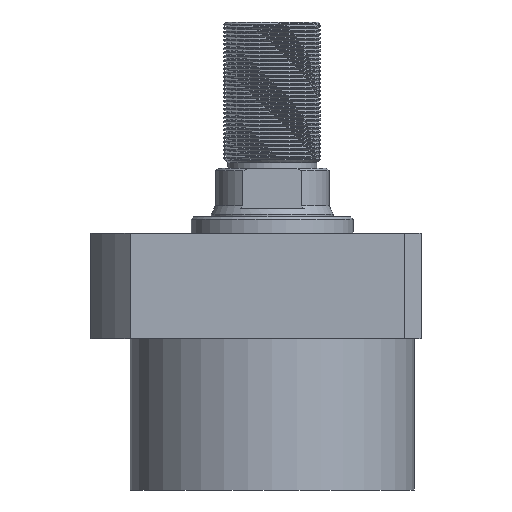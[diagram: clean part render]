
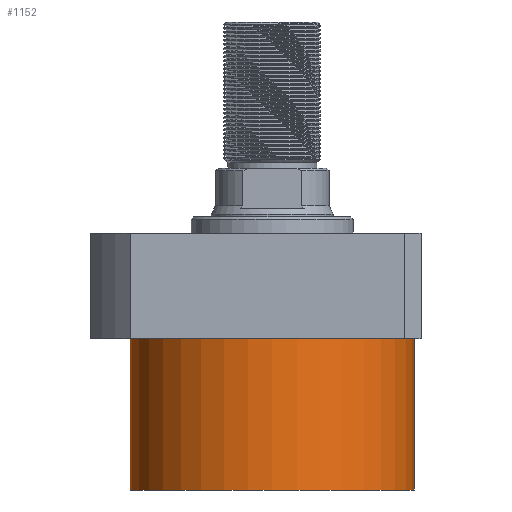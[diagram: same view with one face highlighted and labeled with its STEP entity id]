
A CAD part, front view. The second image highlights one B-rep face of the part: STEP entity #1152.
In plain terms, the highlighted cylindrical face has radius 52.5 mm (diameter 105 mm), a partial arc.
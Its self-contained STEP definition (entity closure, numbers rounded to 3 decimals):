
#318 = CARTESIAN_POINT ( 'NONE',  ( -52.5, 0., -75.5 ) ) ;
#444 = LINE ( 'NONE', #2440, #3765 ) ;
#456 = DIRECTION ( 'NONE',  ( 0., 0., 1. ) ) ;
#610 = AXIS2_PLACEMENT_3D ( 'NONE', #5414, #1707, #6034 ) ;
#627 = CIRCLE ( 'NONE', #6804, 52.5 ) ;
#729 = ORIENTED_EDGE ( 'NONE', *, *, #3723, .F. ) ;
#1068 = DIRECTION ( 'NONE',  ( 0., 0., 1. ) ) ;
#1152 = ADVANCED_FACE ( 'NONE', ( #1746 ), #3207, .T. ) ;
#1601 = ORIENTED_EDGE ( 'NONE', *, *, #4096, .T. ) ;
#1622 = VECTOR ( 'NONE', #456, 1000. ) ;
#1707 = DIRECTION ( 'NONE',  ( 0., 0., -1. ) ) ;
#1746 = FACE_OUTER_BOUND ( 'NONE', #2400, .T. ) ;
#2175 = VERTEX_POINT ( 'NONE', #7594 ) ;
#2400 = EDGE_LOOP ( 'NONE', ( #5683, #729, #3854, #1601 ) ) ;
#2440 = CARTESIAN_POINT ( 'NONE',  ( 52.5, 0., -75.5 ) ) ;
#2913 = CARTESIAN_POINT ( 'NONE',  ( -52.5, 0., -75.5 ) ) ;
#3207 = CYLINDRICAL_SURFACE ( 'NONE', #4090, 52.5 ) ;
#3270 = LINE ( 'NONE', #2913, #1622 ) ;
#3385 = CARTESIAN_POINT ( 'NONE',  ( -52.5, 0., -19.5 ) ) ;
#3452 = EDGE_CURVE ( 'NONE', #3943, #7008, #3270, .T. ) ;
#3723 = EDGE_CURVE ( 'NONE', #2175, #3943, #627, .T. ) ;
#3761 = DIRECTION ( 'NONE',  ( 0., 0., -1. ) ) ;
#3765 = VECTOR ( 'NONE', #6774, 1000. ) ;
#3854 = ORIENTED_EDGE ( 'NONE', *, *, #4956, .T. ) ;
#3943 = VERTEX_POINT ( 'NONE', #318 ) ;
#4090 = AXIS2_PLACEMENT_3D ( 'NONE', #7575, #1068, #7052 ) ;
#4096 = EDGE_CURVE ( 'NONE', #5460, #7008, #7323, .T. ) ;
#4956 = EDGE_CURVE ( 'NONE', #2175, #5460, #444, .T. ) ;
#5013 = CARTESIAN_POINT ( 'NONE',  ( 52.5, 0., -19.5 ) ) ;
#5414 = CARTESIAN_POINT ( 'NONE',  ( 0., 0., -19.5 ) ) ;
#5460 = VERTEX_POINT ( 'NONE', #5013 ) ;
#5683 = ORIENTED_EDGE ( 'NONE', *, *, #3452, .F. ) ;
#6034 = DIRECTION ( 'NONE',  ( 1., 0., 0. ) ) ;
#6774 = DIRECTION ( 'NONE',  ( 0., 0., 1. ) ) ;
#6804 = AXIS2_PLACEMENT_3D ( 'NONE', #7447, #3761, #8075 ) ;
#7008 = VERTEX_POINT ( 'NONE', #3385 ) ;
#7052 = DIRECTION ( 'NONE',  ( 1., 0., 0. ) ) ;
#7323 = CIRCLE ( 'NONE', #610, 52.5 ) ;
#7447 = CARTESIAN_POINT ( 'NONE',  ( 0., 0., -75.5 ) ) ;
#7575 = CARTESIAN_POINT ( 'NONE',  ( 0., 0., -75.5 ) ) ;
#7594 = CARTESIAN_POINT ( 'NONE',  ( 52.5, 0., -75.5 ) ) ;
#8075 = DIRECTION ( 'NONE',  ( -1., 0., 0. ) ) ;
